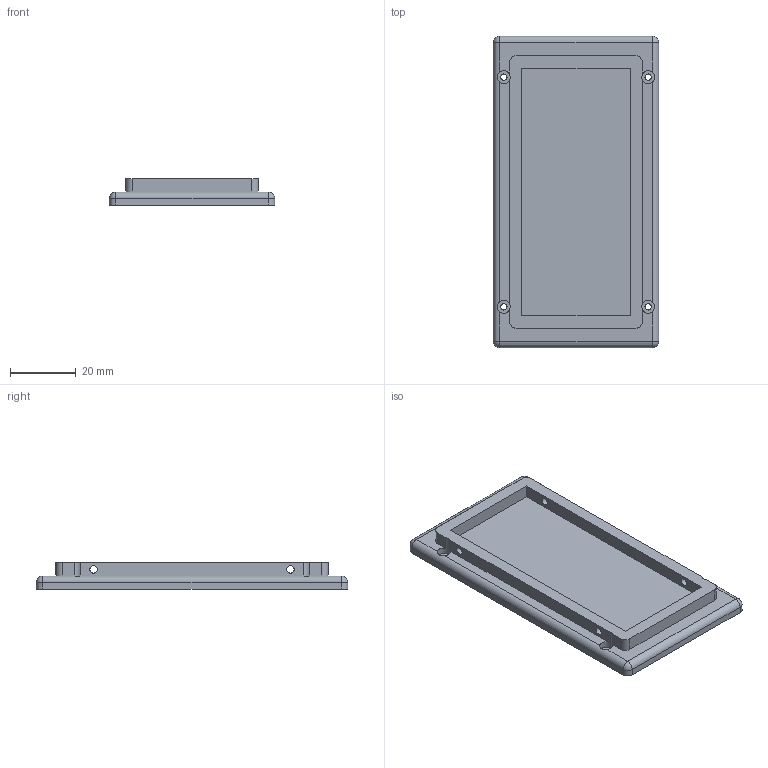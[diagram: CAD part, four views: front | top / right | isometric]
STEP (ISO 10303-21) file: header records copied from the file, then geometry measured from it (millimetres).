
FILE_DESCRIPTION(/* description */ (''),/* implementation_level */ '2;1');
FILE_NAME(/* name */ 'computer unit adapter female v5.step',/* time_stamp */ '2025-07-16T17:41:44+08:00',/* author */ (''),/* organization */ (''),/* preprocessor_version */ 'ST-DEVELOPER v20.1',/* originating_system */ 'Autodesk Translation Framework v14.10.0.0',/* authorisation */ '');
FILE_SCHEMA (('AUTOMOTIVE_DESIGN { 1 0 10303 214 3 1 1 }'));
Length unit declared in the file: millimetre
Products named in the file (1): computer unit adapter female
Bounding box: 50.5 x 95 x 8 mm (x, y, z)
Volume: 22212.3 mm3; surface area: 12530.7 mm2
Topology: 1 solids, 1 shells, 55 faces, 144 edges, 92 vertices
Faces by surface type: plane 27, cylinder 24, sphere 4
Full cylindrical faces by diameter (mm): 1.95 x4, 2.25 x4, 3.95 x4
Entity records: 1809 total; most frequent: CARTESIAN_POINT 348, DIRECTION 308, ORIENTED_EDGE 288, EDGE_CURVE 144, AXIS2_PLACEMENT_3D 114, VERTEX_POINT 92, LINE 80, VECTOR 80
